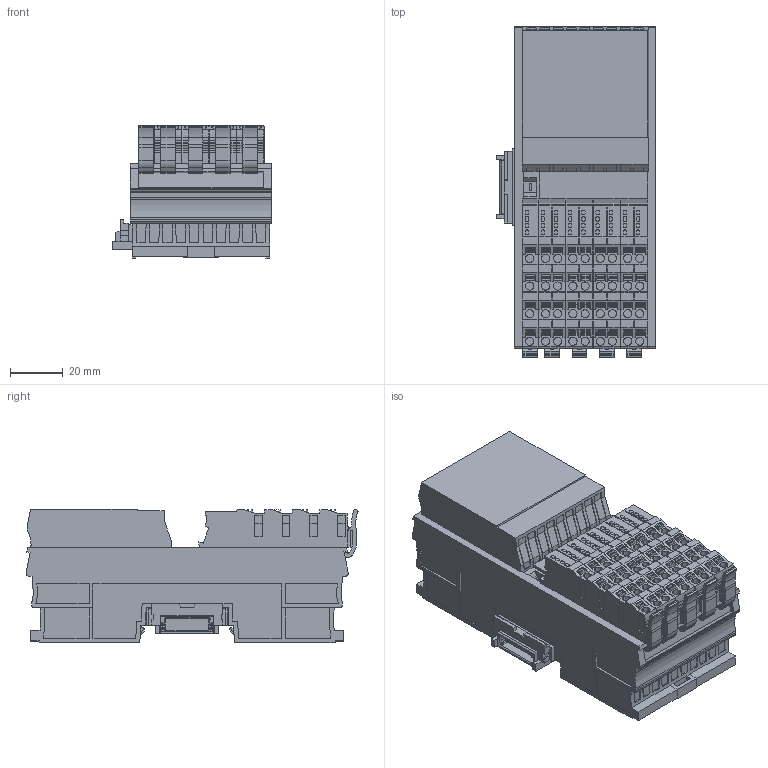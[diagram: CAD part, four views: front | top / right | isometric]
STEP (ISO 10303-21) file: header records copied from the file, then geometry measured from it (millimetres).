
FILE_DESCRIPTION((''),'2;1');
FILE_NAME('CU_REM-11178','2017-05-11T',('dkendric'),(''),'CREO PARAMETRIC BY PTC INC, 2015380','CREO PARAMETRIC BY PTC INC, 2015380','');
FILE_SCHEMA(('CONFIG_CONTROL_DESIGN'));
Products named in the file (1): CU_REM-11178
Bounding box: 60.4 x 126.13 x 50.75 mm (x, y, z)
Volume: 278665.8 mm3; surface area: 60721.4 mm2
Topology: 1 solids, 13 shells, 2955 faces, 8256 edges, 5454 vertices
Faces by surface type: plane 2365, cylinder 590
Entity records: 94077 total; most frequent: CARTESIAN_POINT 17002, ORIENTED_EDGE 16512, DIRECTION 15273, EDGE_CURVE 8256, VECTOR 6955, LINE 6955, VERTEX_POINT 5454, AXIS2_PLACEMENT_3D 4159
